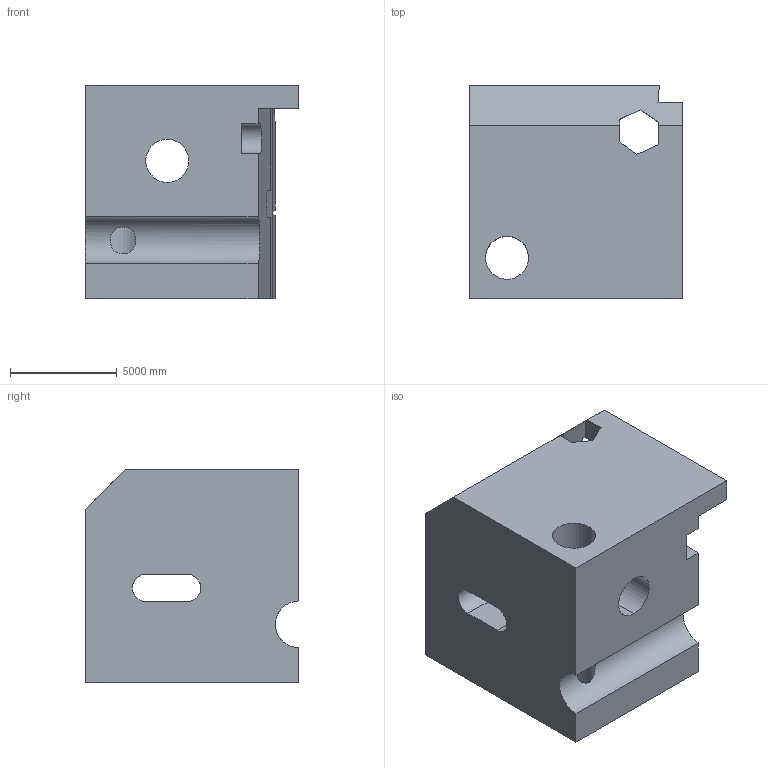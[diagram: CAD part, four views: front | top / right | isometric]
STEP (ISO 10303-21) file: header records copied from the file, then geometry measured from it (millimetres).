
FILE_DESCRIPTION (( 'STEP AP203' ), '1' );
FILE_NAME ('849.STEP', '2022-07-29T13:41:36', ( 'user' ), ( '' ), 'SwSTEP 2.0', 'SolidWorks 2021', '' );
FILE_SCHEMA (( 'CONFIG_CONTROL_DESIGN' ));
Length unit declared in the file: centimetre
Products named in the file (1): 849
Bounding box: 10000 x 10000 x 10000 mm (x, y, z)
Volume: 709377760254 mm3; surface area: 766132993.7 mm2
Topology: 1 solids, 1 shells, 34 faces, 107 edges, 72 vertices
Faces by surface type: plane 26, cylinder 8
Entity records: 1513 total; most frequent: CARTESIAN_POINT 469, ORIENTED_EDGE 214, DIRECTION 183, EDGE_CURVE 107, LINE 87, VECTOR 87, VERTEX_POINT 72, AXIS2_PLACEMENT_3D 48
